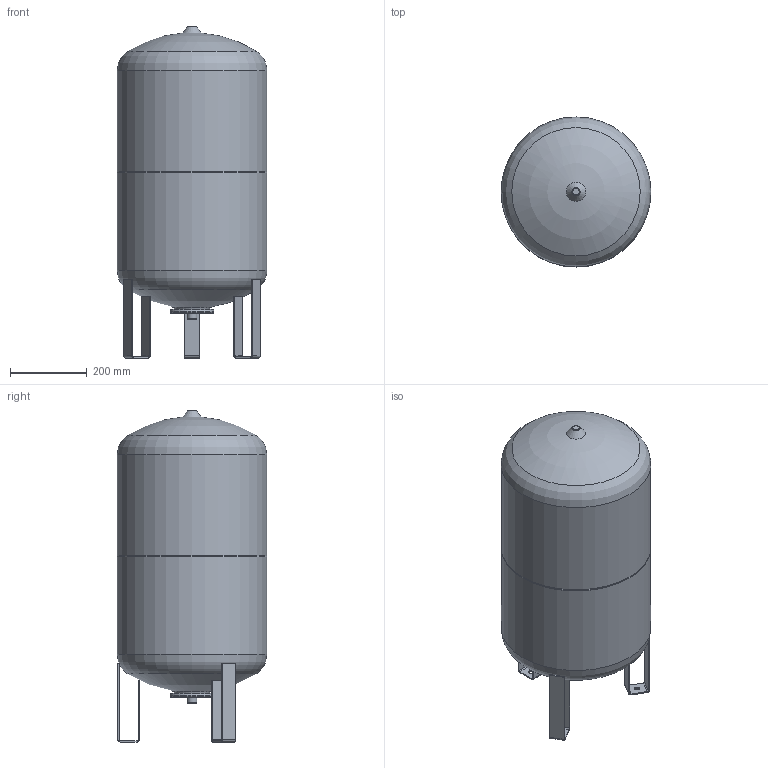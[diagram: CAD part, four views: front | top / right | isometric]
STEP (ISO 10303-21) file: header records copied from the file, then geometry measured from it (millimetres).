
FILE_DESCRIPTION(('STEP AP242'), '1');
FILE_NAME('VT.A.R.050080', '', ('UNSPECIFIED'), ('UNSPECIFIED'), 'C3D Converter', 'C3D Toolkit', '');
FILE_SCHEMA(('AP242_MANAGED_MODEL_BASED_3D_ENGINEERING_MIM_LF { 1 0 10303 442 1 1 4 }'));
Length unit declared in the file: millimetre
Bounding box: 390 x 390 x 864.3 mm (x, y, z)
Volume: 77831281.1 mm3; surface area: 1093194.8 mm2
Topology: 4 solids, 4 shells, 83 faces, 221 edges, 152 vertices
Faces by surface type: plane 38, cylinder 21, torus 15, cone 7, sphere 2
Full cylindrical faces by diameter (mm): 13 x3, 20 x1, 26 x1, 78 x1, 114 x1, 390 x2
Entity records: 2556 total; most frequent: DIRECTION 460, CARTESIAN_POINT 424, ORIENTED_EDGE 376, AXIS2_PLACEMENT_3D 188, EDGE_CURVE 188, VERTEX_POINT 152, EDGE_LOOP 128, FACE_BOUND 122
